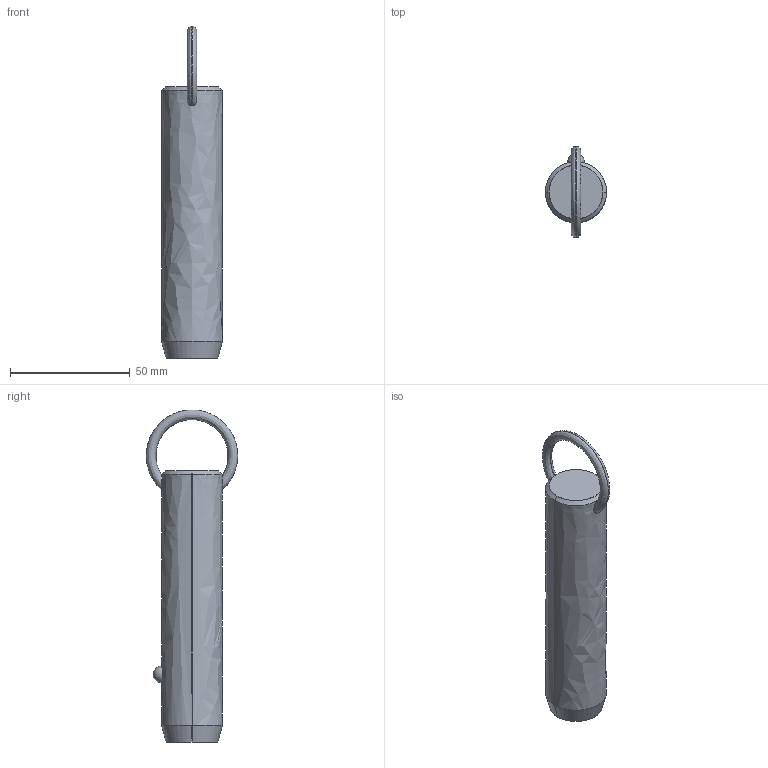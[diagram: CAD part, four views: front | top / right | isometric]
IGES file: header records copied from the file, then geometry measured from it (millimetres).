
Start section: SolidWorks IGES file using analytic representation for surfaces
Global section: file name: C:\Users\liam_\OneDrive\Documents\WORK\Work for WixRoyd\Job Files\J-00019 - Matt Davis CAD Checking\04. CAD Drawings\automotion20190605\P1250.2_v2\P1250.2_v2_20190729_IGES\P1250.100-270.igs; native system: SolidWorks 2017; preprocessor: SolidWorks 2017; author: liam_; date: 190730.173619; units: millimetre
Bounding box: 25.4 x 38.1 x 138.38 mm (x, y, z)
Surface area: 10790.3 mm2 (no closed solid volume)
Topology: 0 solids, 0 shells, 12 faces, 298 edges, 296 vertices
Faces by surface type: revolution 8, bspline 4
